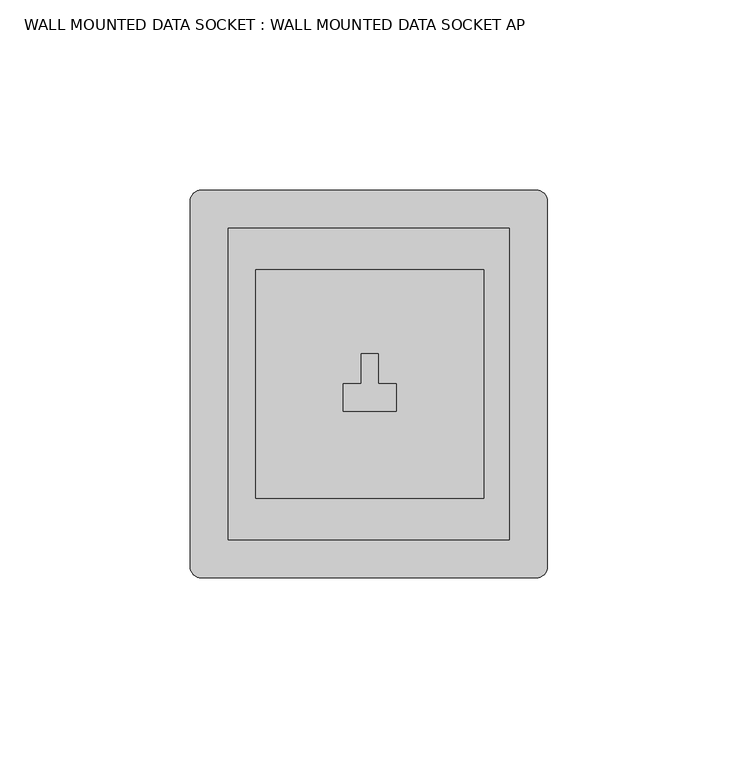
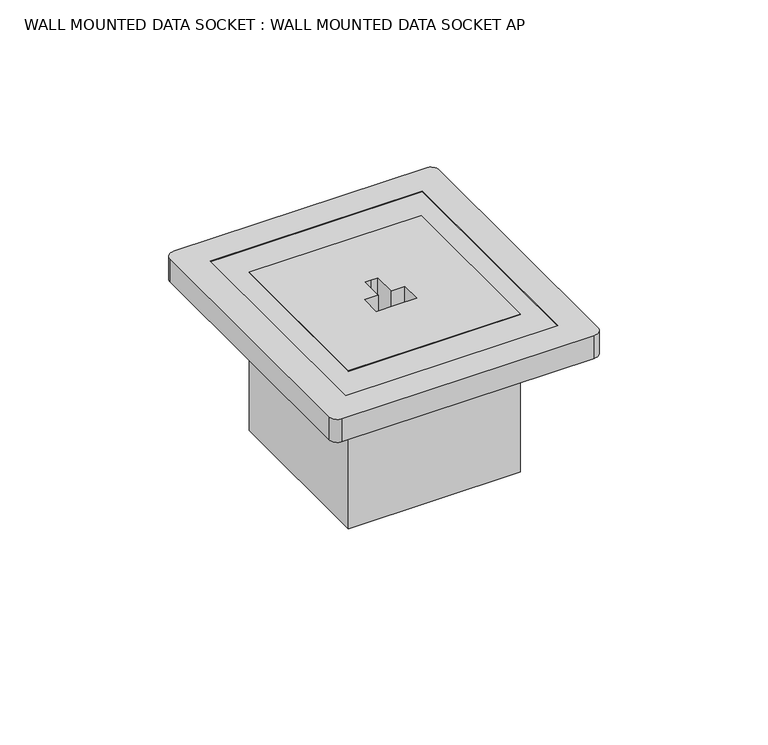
"""IFC4 building model written with IfcOpenShell, lengths in millimetres: electric appliance geometry, WALL MOUNTED DATA SOCKET : WALL MOUNTED DATA SOCKET AP."""

from ifc_helpers import new_model, si_unit, point, frame, frame_2d, origin, origin_with_axes, place, context, project, spatial, polyline, circle_curve, trimmed, segment, composite_curve, outline, extrude, source, transform, mapped, element, save


def wall_mounted_data_socket_wall_mounted_data_socket_ap_766e5305(model_context):
    return source(origin(), model_context, "Body", "SweptSolid", [
        extrude(outline(polyline([(-30.0, 30.0), (30.0, 30.0), (30.0, -30.0), (-30.0, -30.0), (-30.0, 30.0)])), frame((0.0, 0.0, -50.0), z_axis=(0.0, 0.0, 1.0), x_axis=(1.0, 0.0, 0.0)), (0.0, 0.0, 1.0), 33.5),
        extrude(outline(composite_curve([segment(polyline([(-47.25, -48.0), (-47.25, 48.0)]), True, "CONTINUOUS"), segment(trimmed(circle_curve(frame_2d((-44.25, 48.0)), 3.0), [point((-47.25, 48.0))], [point((-44.25, 51.0))], False, "CARTESIAN"), True, "CONTINUOUS"), segment(polyline([(-44.25, 51.0), (43.75, 51.0)]), True, "CONTINUOUS"), segment(trimmed(circle_curve(frame_2d((43.75, 48.0)), 3.0), [point((43.75, 51.0))], [point((46.75, 48.0))], False, "CARTESIAN"), True, "CONTINUOUS"), segment(polyline([(46.75, 48.0), (46.75, -48.0)]), True, "CONTINUOUS"), segment(trimmed(circle_curve(frame_2d((43.75, -48.0)), 3.0), [point((46.75, -48.0))], [point((43.75, -51.0))], False, "CARTESIAN"), True, "CONTINUOUS"), segment(polyline([(43.75, -51.0), (-44.25, -51.0)]), True, "CONTINUOUS"), segment(trimmed(circle_curve(frame_2d((-44.25, -48.0)), 3.0), [point((-44.25, -51.0))], [point((-47.25, -48.0))], False, "CARTESIAN"), True, "CONTINUOUS")], self_intersect=False), holes=[polyline([(-37.25, 41.0), (-37.25, -41.0), (36.75, -41.0), (36.75, 41.0), (-37.25, 41.0)])]), origin_with_axes(), (0.0, 0.0, 1.0), 8.5),
        extrude(outline(polyline([(-30.0, 30.0), (30.0, 30.0), (30.0, -30.0), (-30.0, -30.0), (-30.0, 30.0)]), holes=[polyline([(-2.230467, 0.0), (-7.0, 0.0), (-7.0, -7.1508508), (0.0, -7.1508508), (7.0, -7.1508508), (7.0, 0.0), (2.230467, 0.0), (2.230467, 8.0), (0.0, 8.0), (-2.230467, 8.0), (-2.230467, 0.0)])]), frame((0.0, 0.0, -16.5), z_axis=(0.0, 0.0, 1.0), x_axis=(1.0, 0.0, 0.0)), (0.0, 0.0, 1.0), 25.0),
        extrude(outline(polyline([(-37.25, 41.0), (36.75, 41.0), (36.75, -41.0), (-37.25, -41.0), (-37.25, 41.0)]), holes=[polyline([(30.0, -30.0), (30.0, 30.0), (-30.0, 30.0), (-30.0, -30.0), (30.0, -30.0)])]), origin_with_axes(), (0.0, 0.0, 1.0), 8.5),
    ])


if __name__ == "__main__":
    model = new_model("IFC4")
    model_context = context("Model", 3, world=origin())
    ifc_project = project(units=[si_unit("LENGTHUNIT", "METRE", prefix="MILLI")], contexts=[model_context])
    site = spatial("IfcSite", under=ifc_project)
    building = spatial("IfcBuilding", under=site)
    placement = place(None, origin())
    wall_mounted_data_socket_wall_mounted_data_socket_ap_shape = wall_mounted_data_socket_wall_mounted_data_socket_ap_766e5305(model_context)
    element("IfcElectricAppliance", 1, ObjectType="WALL MOUNTED DATA SOCKET : WALL MOUNTED DATA SOCKET AP", at=placement, inside=building, context=model_context, shape_type="MappedRepresentation", body=[
        mapped(wall_mounted_data_socket_wall_mounted_data_socket_ap_shape, transform((0.0, 0.0, 0.0), x_axis=(1.0, 0.0, 0.0), y_axis=(0.0, 1.0, 0.0), z_axis=(0.0, 0.0, 1.0))),
    ])
    save(model, "model.ifc")
